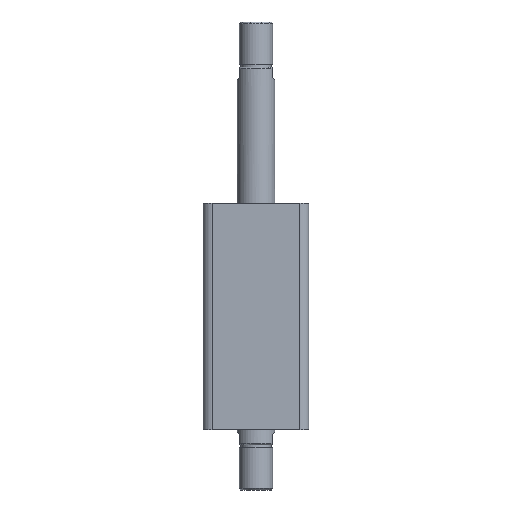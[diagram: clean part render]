
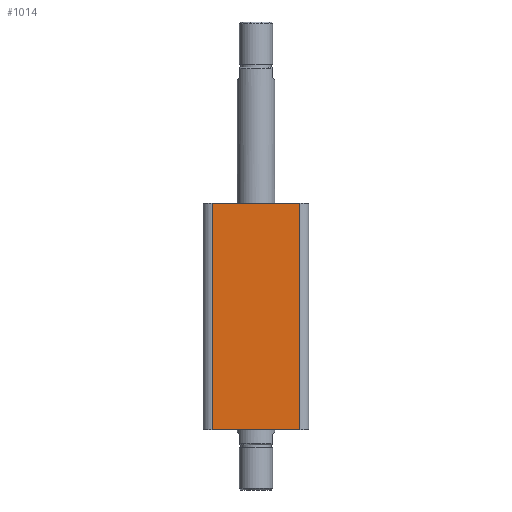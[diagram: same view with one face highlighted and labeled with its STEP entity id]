
A CAD part, front view. The second image highlights one B-rep face of the part: STEP entity #1014.
In plain terms, the highlighted planar face has unit normal (0, -1, 0).
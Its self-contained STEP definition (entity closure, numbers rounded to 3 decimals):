
#295 = ORIENTED_EDGE ( 'NONE', *, *, #1296, .T. ) ;
#296 = ORIENTED_EDGE ( 'NONE', *, *, #1298, .T. ) ;
#297 = ORIENTED_EDGE ( 'NONE', *, *, #1297, .T. ) ;
#298 = ORIENTED_EDGE ( 'NONE', *, *, #1299, .F. ) ;
#1014 = ADVANCED_FACE ( 'NONE', ( #2645 ), #2173, .F. ) ;
#1296 = EDGE_CURVE ( 'NONE', #2250, #2251, #1808, .T. ) ;
#1297 = EDGE_CURVE ( 'NONE', #2249, #2250, #1806, .T. ) ;
#1298 = EDGE_CURVE ( 'NONE', #2844, #2249, #1812, .T. ) ;
#1299 = EDGE_CURVE ( 'NONE', #2844, #2251, #1814, .T. ) ;
#1391 = AXIS2_PLACEMENT_3D ( 'NONE', #2171, #2175, #2176 ) ;
#1806 = LINE ( 'NONE', #3259, #1813 ) ;
#1808 = LINE ( 'NONE', #3266, #1811 ) ;
#1811 = VECTOR ( 'NONE', #3268, 1000. ) ;
#1812 = LINE ( 'NONE', #3270, #1815 ) ;
#1813 = VECTOR ( 'NONE', #3269, 1000. ) ;
#1814 = LINE ( 'NONE', #3272, #1817 ) ;
#1815 = VECTOR ( 'NONE', #3271, 1000. ) ;
#1817 = VECTOR ( 'NONE', #3273, 1000. ) ;
#2171 = CARTESIAN_POINT ( 'NONE',  ( -35., -35., 150. ) ) ;
#2173 = PLANE ( 'NONE',  #1391 ) ;
#2175 = DIRECTION ( 'NONE',  ( 0., 1., 0. ) ) ;
#2176 = DIRECTION ( 'NONE',  ( 0., 0., 1. ) ) ;
#2249 = VERTEX_POINT ( 'NONE', #3308 ) ;
#2250 = VERTEX_POINT ( 'NONE', #3307 ) ;
#2251 = VERTEX_POINT ( 'NONE', #3317 ) ;
#2645 = FACE_OUTER_BOUND ( 'NONE', #2931, .T. ) ;
#2844 = VERTEX_POINT ( 'NONE', #3349 ) ;
#2931 = EDGE_LOOP ( 'NONE', ( #298, #296, #297, #295 ) ) ;
#3259 = CARTESIAN_POINT ( 'NONE',  ( -35., -35., 0. ) ) ;
#3266 = CARTESIAN_POINT ( 'NONE',  ( 29., -35., 150. ) ) ;
#3268 = DIRECTION ( 'NONE',  ( 0., 0., 1. ) ) ;
#3269 = DIRECTION ( 'NONE',  ( 1., 0., 0. ) ) ;
#3270 = CARTESIAN_POINT ( 'NONE',  ( -29., -35., 150. ) ) ;
#3271 = DIRECTION ( 'NONE',  ( 0., 0., -1. ) ) ;
#3272 = CARTESIAN_POINT ( 'NONE',  ( -35., -35., 150. ) ) ;
#3273 = DIRECTION ( 'NONE',  ( 1., 0., 0. ) ) ;
#3307 = CARTESIAN_POINT ( 'NONE',  ( 29., -35., 0. ) ) ;
#3308 = CARTESIAN_POINT ( 'NONE',  ( -29., -35., 0. ) ) ;
#3317 = CARTESIAN_POINT ( 'NONE',  ( 29., -35., 150. ) ) ;
#3349 = CARTESIAN_POINT ( 'NONE',  ( -29., -35., 150. ) ) ;
